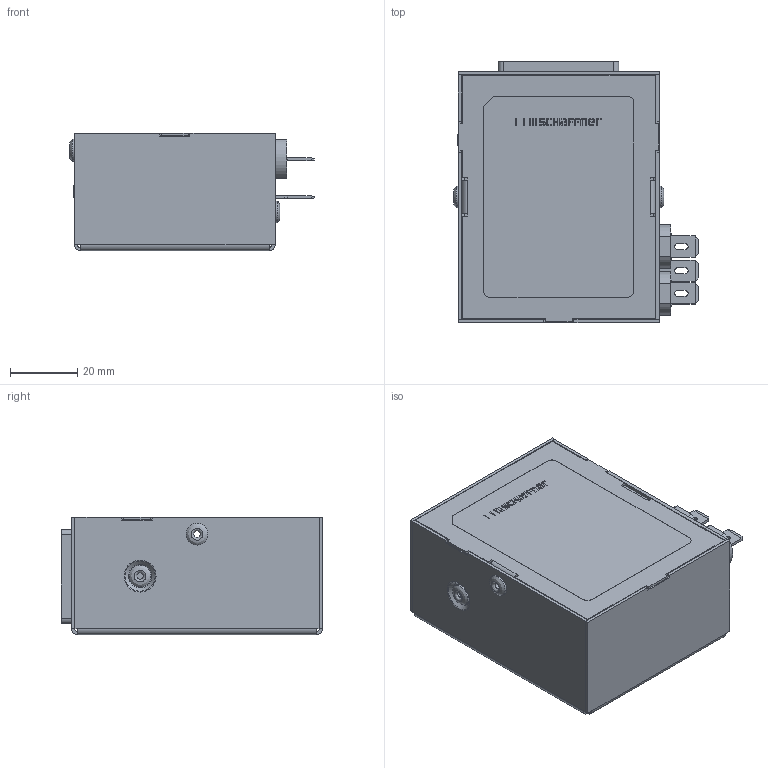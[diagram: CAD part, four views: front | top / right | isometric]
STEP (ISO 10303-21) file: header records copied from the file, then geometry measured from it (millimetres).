
FILE_DESCRIPTION((''),'2;1');
FILE_NAME('D:\_ PRODUCT\New project\3D request\FN9246B - 16A\FN9246B-16A.stp','2013-04-18T16:49:27',('sayan.penton'),(''),'Autodesk Inventor 2010','Autodesk Inventor 2010','');
FILE_SCHEMA(('AUTOMOTIVE_DESIGN { 1 0 10303 214 1 1 1 1 }'));
Length unit declared in the file: millimetre
Products named in the file (1): Part2
Bounding box: 73.1 x 78 x 35.05 mm (x, y, z)
Volume: 23950.1 mm3; surface area: 42933.2 mm2
Topology: 2 solids, 2 shells, 722 faces, 1852 edges, 1189 vertices
Faces by surface type: plane 446, cylinder 142, bspline 119, cone 14, torus 1
Full cylindrical faces by diameter (mm): 2 x4, 2.5 x2, 3.2 x4, 3.3 x1, 3.4 x4, 3.77 x2, 3.8 x3, 4.2 x2, 4.3 x2, 5.2 x4, 6.3 x2, 6.5 x4
Entity records: 27229 total; most frequent: CARTESIAN_POINT 9710, ORIENTED_EDGE 3534, DIRECTION 3119, EDGE_CURVE 1767, VECTOR 1255, LINE 1255, VERTEX_POINT 1170, AXIS2_PLACEMENT_3D 932
